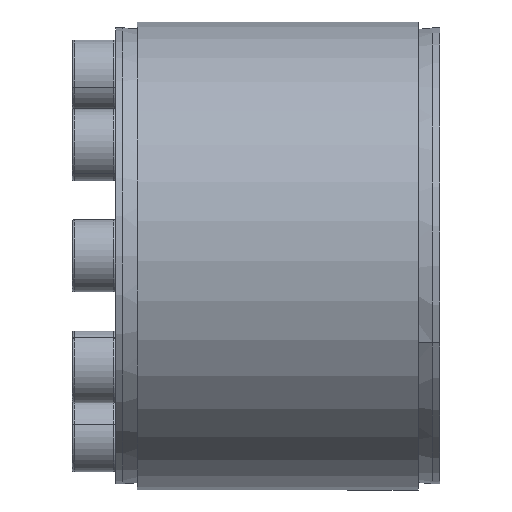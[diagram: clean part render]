
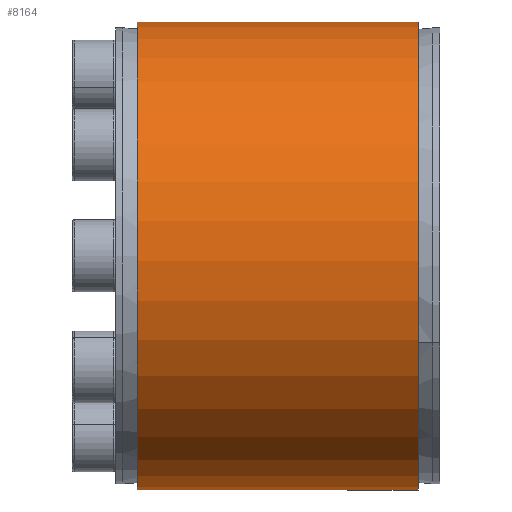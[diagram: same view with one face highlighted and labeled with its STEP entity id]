
A CAD part, front view. The second image highlights one B-rep face of the part: STEP entity #8164.
In plain terms, the highlighted cylindrical face has radius 32.5 mm (diameter 65 mm), a partial arc.
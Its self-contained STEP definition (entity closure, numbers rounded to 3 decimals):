
#143 = ORIENTED_EDGE ( 'NONE', *, *, #824, .F. ) ;
#238 = CYLINDRICAL_SURFACE ( 'NONE', #1875, 32.5 ) ;
#576 = LINE ( 'NONE', #7852, #9164 ) ;
#811 = EDGE_LOOP ( 'NONE', ( #143, #3076, #5955, #5828 ) ) ;
#824 = EDGE_CURVE ( 'NONE', #4373, #4581, #8334, .T. ) ;
#1160 = AXIS2_PLACEMENT_3D ( 'NONE', #8120, #7904, #7782 ) ;
#1184 = CIRCLE ( 'NONE', #2488, 32.5 ) ;
#1365 = EDGE_CURVE ( 'NONE', #8147, #4555, #576, .T. ) ;
#1875 = AXIS2_PLACEMENT_3D ( 'NONE', #2147, #2191, #2279 ) ;
#2147 = CARTESIAN_POINT ( 'NONE',  ( -45.522, 0., 0. ) ) ;
#2191 = DIRECTION ( 'NONE',  ( -1., 0., 0. ) ) ;
#2279 = DIRECTION ( 'NONE',  ( 0., 0., 1. ) ) ;
#2384 = FACE_OUTER_BOUND ( 'NONE', #811, .T. ) ;
#2452 = CARTESIAN_POINT ( 'NONE',  ( -19.5, -1.5, 32.465 ) ) ;
#2488 = AXIS2_PLACEMENT_3D ( 'NONE', #6144, #6075, #6052 ) ;
#2653 = DIRECTION ( 'NONE',  ( -1., 0., 0. ) ) ;
#3048 = EDGE_CURVE ( 'NONE', #4581, #8147, #1184, .T. ) ;
#3076 = ORIENTED_EDGE ( 'NONE', *, *, #3558, .T. ) ;
#3129 = CARTESIAN_POINT ( 'NONE',  ( 19.5, 1.5, 32.465 ) ) ;
#3558 = EDGE_CURVE ( 'NONE', #4373, #4555, #6787, .T. ) ;
#4373 = VERTEX_POINT ( 'NONE', #3129 ) ;
#4555 = VERTEX_POINT ( 'NONE', #8935 ) ;
#4581 = VERTEX_POINT ( 'NONE', #8489 ) ;
#5828 = ORIENTED_EDGE ( 'NONE', *, *, #3048, .F. ) ;
#5955 = ORIENTED_EDGE ( 'NONE', *, *, #1365, .F. ) ;
#6052 = DIRECTION ( 'NONE',  ( 0., 0., 1. ) ) ;
#6075 = DIRECTION ( 'NONE',  ( -1., 0., 0. ) ) ;
#6144 = CARTESIAN_POINT ( 'NONE',  ( -19.5, 0., 0. ) ) ;
#6787 = CIRCLE ( 'NONE', #1160, 32.5 ) ;
#7782 = DIRECTION ( 'NONE',  ( 0., 0., 1. ) ) ;
#7832 = DIRECTION ( 'NONE',  ( 1., 0., 0. ) ) ;
#7852 = CARTESIAN_POINT ( 'NONE',  ( -45.522, -1.5, 32.465 ) ) ;
#7904 = DIRECTION ( 'NONE',  ( -1., 0., 0. ) ) ;
#8120 = CARTESIAN_POINT ( 'NONE',  ( 19.5, 0., 0. ) ) ;
#8147 = VERTEX_POINT ( 'NONE', #2452 ) ;
#8164 = ADVANCED_FACE ( 'NONE', ( #2384 ), #238, .T. ) ;
#8241 = VECTOR ( 'NONE', #2653, 1000. ) ;
#8334 = LINE ( 'NONE', #9075, #8241 ) ;
#8489 = CARTESIAN_POINT ( 'NONE',  ( -19.5, 1.5, 32.465 ) ) ;
#8935 = CARTESIAN_POINT ( 'NONE',  ( 19.5, -1.5, 32.465 ) ) ;
#9075 = CARTESIAN_POINT ( 'NONE',  ( -45.522, 1.5, 32.465 ) ) ;
#9164 = VECTOR ( 'NONE', #7832, 1000. ) ;
